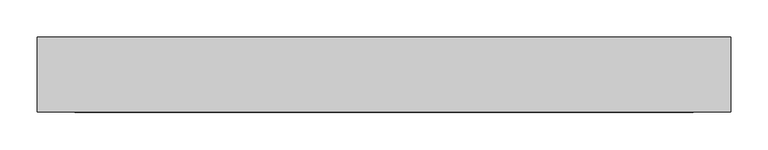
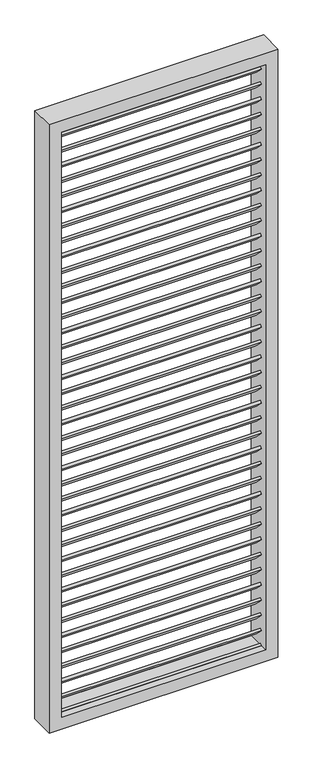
"""IFC4 building model written with IfcOpenShell, lengths in millimetres: plate geometry, 幕墙嵌板-百叶 : 幕墙嵌板-百叶."""

import ifcopenshell
import ifcopenshell.guid

model = None  # the IFC model being written
_history = None  # IfcOwnerHistory: only IFC2X3 demands one
_inside = {}  # id of a spatial element -> (the spatial element, [elements in it])
_under = {}  # id of a project, library or spatial element -> (it, [spatial elements below it])
_declared = {}  # id of a project -> (the project, [libraries it declares])
_typed = {}  # id of a type object -> (the type object, [elements of that type])
_made_of = {}  # id of a material, layer set ... -> (it, [elements and type objects made of it])


def new_model(schema):
    """Start an empty IFC model of exactly this schema.

    Asked for "IFC4X3", IfcOpenShell would pick the latest addendum, in which some entities
    have other attributes; the version numbers below select the first issue.
    IFC2X3 requires an IfcOwnerHistory on every rooted entity: one is made here for all.
    """
    global model, _history
    if schema == "IFC4X3":
        model = ifcopenshell.file(schema_version=(4, 3, 0, 0))
    else:
        model = ifcopenshell.file(schema=schema)
    _inside.clear()
    _under.clear()
    _declared.clear()
    _typed.clear()
    _made_of.clear()
    _history = None
    if model.schema == "IFC2X3":
        org = make("IfcOrganization", Name="unknown")
        user = make(
            "IfcPersonAndOrganization",
            ThePerson=make("IfcPerson", FamilyName="unknown"),
            TheOrganization=org,
        )
        app = make(
            "IfcApplication",
            ApplicationDeveloper=org,
            Version="unknown",
            ApplicationFullName="unknown",
            ApplicationIdentifier="unknown",
        )
        _history = make(
            "IfcOwnerHistory",
            OwningUser=user,
            OwningApplication=app,
            ChangeAction="ADDED",
            CreationDate=0,
        )
    return model


def make(cls, **values):
    """One entity of the class cls with the attributes given. An attribute that is None is left unset."""
    return model.create_entity(
        cls, **{name: value for name, value in values.items() if value is not None}
    )


def rooted(cls, **values):
    """An entity with a GlobalId (a new one), such as an element, a storey or a relation."""
    return make(cls, GlobalId=ifcopenshell.guid.new(), OwnerHistory=_history, **values)


def si_unit(unit_type, name, prefix=None):
    """IfcSIUnit, for example si_unit("LENGTHUNIT", "METRE", prefix="MILLI")."""
    return make("IfcSIUnit", UnitType=unit_type, Prefix=prefix, Name=name)


def assignment(units):
    """IfcUnitAssignment: the units of a project."""
    return None if units is None else make("IfcUnitAssignment", Units=units)


def point(xyz):
    """IfcCartesianPoint."""
    return None if xyz is None else make("IfcCartesianPoint", Coordinates=xyz)


def direction(xyz):
    """IfcDirection."""
    return None if xyz is None else make("IfcDirection", DirectionRatios=xyz)


def frame(location, z_axis=None, x_axis=None):
    """IfcAxis2Placement3D, a coordinate frame: its origin and axes. An axis left out is left unset."""
    return make(
        "IfcAxis2Placement3D",
        Location=point(location),
        Axis=direction(z_axis),
        RefDirection=direction(x_axis),
    )


def origin():
    """The frame at (0, 0, 0) with its axes left unset."""
    return frame((0.0, 0.0, 0.0))


def place(relative_to, where):
    """IfcLocalPlacement: puts the frame where relative to a parent placement (None: the world)."""
    return make(
        "IfcLocalPlacement", PlacementRelTo=relative_to, RelativePlacement=where
    )


def context(
    kind, dimensions, precision=None, world=None, true_north=None, identifier=None
):
    """IfcGeometricRepresentationContext, for example the 3D "Model" context."""
    return make(
        "IfcGeometricRepresentationContext",
        ContextIdentifier=identifier,
        ContextType=kind,
        CoordinateSpaceDimension=dimensions,
        Precision=precision,
        WorldCoordinateSystem=world,
        TrueNorth=true_north,
    )


def project(units=None, contexts=None):
    """IfcProject with its units and contexts."""
    return rooted(
        "IfcProject",
        Name="project",
        RepresentationContexts=contexts,
        UnitsInContext=assignment(units),
    )


def spatial(cls, under=None, at=None, **own):
    """A site, building, storey or space (cls), placed at a placement, below another one or the project."""
    s = rooted(cls, ObjectPlacement=at, **own)
    if under is not None:
        _under.setdefault(under.id(), (under, []))[1].append(s)
    return s


def polyline(points):
    """IfcPolyline through the points."""
    return make("IfcPolyline", Points=[point(p) for p in points])


def outline(outer, holes=None, kind="AREA"):
    """IfcArbitraryClosedProfileDef: a profile drawn as a closed curve; with holes, ...WithVoids."""
    if holes is None:
        return make("IfcArbitraryClosedProfileDef", ProfileType=kind, OuterCurve=outer)
    return make(
        "IfcArbitraryProfileDefWithVoids",
        ProfileType=kind,
        OuterCurve=outer,
        InnerCurves=holes,
    )


def extrude(swept, where, along, depth):
    """IfcExtrudedAreaSolid: the profile swept, set in the frame where, extruded along a direction by depth."""
    return make(
        "IfcExtrudedAreaSolid",
        SweptArea=swept,
        Position=where,
        ExtrudedDirection=direction(along),
        Depth=depth,
    )


def shape(context_of_items, identifier, shape_type, items):
    """IfcShapeRepresentation: the items that make up one representation, for example the "Body"."""
    return make(
        "IfcShapeRepresentation",
        ContextOfItems=context_of_items,
        RepresentationIdentifier=identifier,
        RepresentationType=shape_type,
        Items=items,
    )


def source(mapping_origin, context_of_items, identifier, shape_type, items):
    """IfcRepresentationMap: a shape defined once, which mapped items show again and again."""
    return make(
        "IfcRepresentationMap",
        MappingOrigin=mapping_origin,
        MappedRepresentation=shape(context_of_items, identifier, shape_type, items),
    )


def transform(
    local_origin,
    x_axis=None,
    y_axis=None,
    z_axis=None,
    scale=None,
    scale2=None,
    scale3=None,
    uniform=True,
):
    """IfcCartesianTransformationOperator3D, or its non-uniform kind. x_axis, y_axis, z_axis: its Axis1, 2, 3."""
    if uniform:
        return make(
            "IfcCartesianTransformationOperator3D",
            Axis1=direction(x_axis),
            Axis2=direction(y_axis),
            LocalOrigin=point(local_origin),
            Scale=scale,
            Axis3=direction(z_axis),
        )
    return make(
        "IfcCartesianTransformationOperator3DnonUniform",
        Axis1=direction(x_axis),
        Axis2=direction(y_axis),
        LocalOrigin=point(local_origin),
        Scale=scale,
        Axis3=direction(z_axis),
        Scale2=scale2,
        Scale3=scale3,
    )


def mapped(mapping_source, mapping_target):
    """IfcMappedItem: shows the shape of a source again, moved by a transform."""
    return make(
        "IfcMappedItem", MappingSource=mapping_source, MappingTarget=mapping_target
    )


def made_of(thing, what):
    """Note that an element or type object is made of a material, layer set ...; save() writes the relation."""
    if what is not None:
        _made_of.setdefault(what.id(), (what, []))[1].append(thing)
    return thing


def element(
    cls,
    number,
    at=None,
    inside=None,
    cuts=None,
    type_object=None,
    material=None,
    context=None,
    identifier="Body",
    shape_type=None,
    held_by="IfcProductDefinitionShape",
    body=None,
    shapes=None,
    **own,
):
    """One element of the class cls, such as IfcWall. Its Tag is "e" and its number.

    at: its placement. inside: the storey or other place that contains it. cuts: it is an
    opening in that element (IfcRelVoidsElement). A single representation is given by context,
    identifier, shape_type and body (its items); several are given by shapes. held_by: the class
    of the entity that holds the representations. save() writes the other relations.
    """
    e = rooted(cls, Tag="e%d" % number, ObjectPlacement=at, **own)
    if body is not None:
        shapes = [shape(context, identifier, shape_type, body)]
    if shapes is not None:
        e.Representation = make(held_by, Representations=shapes)
    if inside is not None:
        _inside.setdefault(inside.id(), (inside, []))[1].append(e)
    if cuts is not None:
        rooted(
            "IfcRelVoidsElement", RelatingBuildingElement=cuts, RelatedOpeningElement=e
        )
    if type_object is not None:
        _typed.setdefault(type_object.id(), (type_object, []))[1].append(e)
    return made_of(e, material)


def aggregate(whole, parts):
    """IfcRelAggregates: a whole, such as a stair, and the parts it consists of."""
    return rooted("IfcRelAggregates", RelatingObject=whole, RelatedObjects=parts)


def save(model, path):
    """Write the relations noted so far, then the file.

    IfcRelAggregates (storeys below a building ...), IfcRelContainedInSpatialStructure (elements
    in a storey), IfcRelDefinesByType, IfcRelAssociatesMaterial and IfcRelDeclares: one each for
    every whole, place, type object, material and project.
    """
    for whole, parts in _under.values():
        aggregate(whole, parts)
    for where, things in _inside.values():
        rooted(
            "IfcRelContainedInSpatialStructure",
            RelatedElements=things,
            RelatingStructure=where,
        )
    for kind, things in _typed.values():
        rooted("IfcRelDefinesByType", RelatedObjects=things, RelatingType=kind)
    for what, things in _made_of.values():
        rooted("IfcRelAssociatesMaterial", RelatedObjects=things, RelatingMaterial=what)
    for by, libraries in _declared.values():
        rooted("IfcRelDeclares", RelatingContext=by, RelatedDefinitions=libraries)
    model.write(path)


def plate_4897ade4(model_context):
    return source(origin(), model_context, "Body", "SweptSolid", [
        extrude(outline(polyline([(0.0, -50.0), (0.0, 0.0), (825.0, 0.0), (825.0, -50.0), (0.0, -50.0)])), frame((412.5, -21.2132034, 2514.2703408), z_axis=(0.0, 0.7071067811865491, 0.7071067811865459), x_axis=(-1.0, 0.0, 0.0)), (0.0, 0.0, 1.0), 10.0),
        extrude(outline(polyline([(0.0, -50.0), (0.0, 0.0), (825.0, 0.0), (825.0, -50.0), (0.0, -50.0)])), frame((412.5, -21.2132034, 2449.3985459), z_axis=(0.0, 0.7071067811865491, 0.7071067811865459), x_axis=(-1.0, 0.0, 0.0)), (0.0, 0.0, 1.0), 10.0),
        extrude(outline(polyline([(0.0, -50.0), (0.0, 0.0), (825.0, 0.0), (825.0, -50.0), (0.0, -50.0)])), frame((412.5, -21.2132034, 2384.526751), z_axis=(0.0, 0.7071067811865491, 0.7071067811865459), x_axis=(-1.0, 0.0, 0.0)), (0.0, 0.0, 1.0), 10.0),
        extrude(outline(polyline([(0.0, -49.9999999), (0.0, 0.0), (825.0, 0.0), (825.0, -49.9999999), (0.0, -49.9999999)])), frame((412.5, -21.2132034, 2319.6549561), z_axis=(0.0, 0.7071067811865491, 0.7071067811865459), x_axis=(-1.0, 0.0, 0.0)), (0.0, 0.0, 1.0), 10.0),
        extrude(outline(polyline([(0.0, -50.0), (0.0, 0.0), (825.0, 0.0), (825.0, -50.0), (0.0, -50.0)])), frame((412.5, -21.2132034, 2254.7831613), z_axis=(0.0, 0.7071067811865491, 0.7071067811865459), x_axis=(-1.0, 0.0, 0.0)), (0.0, 0.0, 1.0), 10.0),
        extrude(outline(polyline([(0.0, -50.0), (0.0, 0.0), (825.0, 0.0), (825.0, -50.0), (0.0, -50.0)])), frame((412.5, -21.2132034, 2189.9113664), z_axis=(0.0, 0.7071067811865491, 0.7071067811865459), x_axis=(-1.0, 0.0, 0.0)), (0.0, 0.0, 1.0), 10.0),
        extrude(outline(polyline([(0.0, -49.9999999), (0.0, 0.0), (825.0, 0.0), (825.0, -49.9999999), (0.0, -49.9999999)])), frame((412.5, -21.2132034, 2125.0395715), z_axis=(0.0, 0.7071067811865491, 0.7071067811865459), x_axis=(-1.0, 0.0, 0.0)), (0.0, 0.0, 1.0), 10.0),
        extrude(outline(polyline([(0.0, -49.9999999), (0.0, 0.0), (825.0, 0.0), (825.0, -49.9999999), (0.0, -49.9999999)])), frame((412.5, -21.2132034, 2060.1677766), z_axis=(0.0, 0.7071067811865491, 0.7071067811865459), x_axis=(-1.0, 0.0, 0.0)), (0.0, 0.0, 1.0), 10.0),
        extrude(outline(polyline([(0.0, -50.0), (0.0, 0.0), (825.0, 0.0), (825.0, -50.0), (0.0, -50.0)])), frame((412.5, -21.2132034, 1995.2959818), z_axis=(0.0, 0.7071067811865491, 0.7071067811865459), x_axis=(-1.0, 0.0, 0.0)), (0.0, 0.0, 1.0), 10.0),
        extrude(outline(polyline([(0.0, -50.0), (0.0, 0.0), (825.0, 0.0), (825.0, -50.0), (0.0, -50.0)])), frame((412.5, -21.2132034, 1930.4241869), z_axis=(0.0, 0.7071067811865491, 0.7071067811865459), x_axis=(-1.0, 0.0, 0.0)), (0.0, 0.0, 1.0), 10.0),
        extrude(outline(polyline([(0.0, -49.9999999), (0.0, 0.0), (825.0, 0.0), (825.0, -49.9999999), (0.0, -49.9999999)])), frame((412.5, -21.2132034, 1865.552392), z_axis=(0.0, 0.7071067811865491, 0.7071067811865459), x_axis=(-1.0, 0.0, 0.0)), (0.0, 0.0, 1.0), 10.0),
        extrude(outline(polyline([(0.0, -50.0), (0.0, 0.0), (825.0, 0.0), (825.0, -50.0), (0.0, -50.0)])), frame((412.5, -21.2132034, 1800.6805972), z_axis=(0.0, 0.7071067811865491, 0.7071067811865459), x_axis=(-1.0, 0.0, 0.0)), (0.0, 0.0, 1.0), 10.0),
        extrude(outline(polyline([(0.0, -50.0), (0.0, 0.0), (825.0, 0.0), (825.0, -50.0), (0.0, -50.0)])), frame((412.5, -21.2132034, 1735.8088023), z_axis=(0.0, 0.7071067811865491, 0.7071067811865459), x_axis=(-1.0, 0.0, 0.0)), (0.0, 0.0, 1.0), 10.0),
        extrude(outline(polyline([(0.0, -49.9999999), (0.0, 0.0), (825.0, 0.0), (825.0, -49.9999999), (0.0, -49.9999999)])), frame((412.5, -21.2132034, 1670.9370074), z_axis=(0.0, 0.7071067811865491, 0.7071067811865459), x_axis=(-1.0, 0.0, 0.0)), (0.0, 0.0, 1.0), 10.0),
        extrude(outline(polyline([(0.0, -49.9999999), (0.0, 0.0), (825.0, 0.0), (825.0, -49.9999999), (0.0, -49.9999999)])), frame((412.5, -21.2132034, 1606.0652125), z_axis=(0.0, 0.7071067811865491, 0.7071067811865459), x_axis=(-1.0, 0.0, 0.0)), (0.0, 0.0, 1.0), 10.0),
        extrude(outline(polyline([(0.0, -50.0), (0.0, 0.0), (825.0, 0.0), (825.0, -50.0), (0.0, -50.0)])), frame((412.5, -21.2132034, 1541.1934177), z_axis=(0.0, 0.7071067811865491, 0.7071067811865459), x_axis=(-1.0, 0.0, 0.0)), (0.0, 0.0, 1.0), 10.0),
        extrude(outline(polyline([(0.0, -50.0), (0.0, 0.0), (825.0, 0.0), (825.0, -50.0), (0.0, -50.0)])), frame((412.5, -21.2132034, 1476.3216228), z_axis=(0.0, 0.7071067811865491, 0.7071067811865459), x_axis=(-1.0, 0.0, 0.0)), (0.0, 0.0, 1.0), 10.0),
        extrude(outline(polyline([(0.0, -49.9999999), (0.0, 0.0), (825.0, 0.0), (825.0, -49.9999999), (0.0, -49.9999999)])), frame((412.5, -21.2132034, 1411.4498279), z_axis=(0.0, 0.7071067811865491, 0.7071067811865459), x_axis=(-1.0, 0.0, 0.0)), (0.0, 0.0, 1.0), 10.0),
        extrude(outline(polyline([(0.0, -50.0), (0.0, 0.0), (825.0, 0.0), (825.0, -50.0), (0.0, -50.0)])), frame((412.5, -21.2132034, 1346.5780331), z_axis=(0.0, 0.7071067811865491, 0.7071067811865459), x_axis=(-1.0, 0.0, 0.0)), (0.0, 0.0, 1.0), 10.0),
        extrude(outline(polyline([(0.0, -50.0), (0.0, 0.0), (825.0, 0.0), (825.0, -50.0), (0.0, -50.0)])), frame((412.5, -21.2132034, 1281.7062382), z_axis=(0.0, 0.7071067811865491, 0.7071067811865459), x_axis=(-1.0, 0.0, 0.0)), (0.0, 0.0, 1.0), 10.0),
        extrude(outline(polyline([(0.0, -49.9999999), (0.0, 0.0), (825.0, 0.0), (825.0, -49.9999999), (0.0, -49.9999999)])), frame((412.5, -21.2132034, 1216.8344433), z_axis=(0.0, 0.7071067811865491, 0.7071067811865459), x_axis=(-1.0, 0.0, 0.0)), (0.0, 0.0, 1.0), 10.0),
        extrude(outline(polyline([(0.0, -49.9999999), (0.0, 0.0), (825.0, 0.0), (825.0, -49.9999999), (0.0, -49.9999999)])), frame((412.5, -21.2132034, 1151.9626484), z_axis=(0.0, 0.7071067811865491, 0.7071067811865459), x_axis=(-1.0, 0.0, 0.0)), (0.0, 0.0, 1.0), 10.0),
        extrude(outline(polyline([(0.0, -50.0), (0.0, 0.0), (825.0, 0.0), (825.0, -50.0), (0.0, -50.0)])), frame((412.5, -21.2132034, 1087.0908536), z_axis=(0.0, 0.7071067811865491, 0.7071067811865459), x_axis=(-1.0, 0.0, 0.0)), (0.0, 0.0, 1.0), 10.0),
        extrude(outline(polyline([(0.0, -50.0), (0.0, 0.0), (825.0, 0.0), (825.0, -50.0), (0.0, -50.0)])), frame((412.5, -21.2132034, 1022.2190587), z_axis=(0.0, 0.7071067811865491, 0.7071067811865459), x_axis=(-1.0, 0.0, 0.0)), (0.0, 0.0, 1.0), 10.0),
        extrude(outline(polyline([(0.0, -49.9999999), (0.0, 0.0), (825.0, 0.0), (825.0, -49.9999999), (0.0, -49.9999999)])), frame((412.5, -21.2132034, 957.3472638), z_axis=(0.0, 0.7071067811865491, 0.7071067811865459), x_axis=(-1.0, 0.0, 0.0)), (0.0, 0.0, 1.0), 10.0),
        extrude(outline(polyline([(0.0, -50.0), (0.0, 0.0), (825.0, 0.0), (825.0, -50.0), (0.0, -50.0)])), frame((412.5, -21.2132034, 892.475469), z_axis=(0.0, 0.7071067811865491, 0.7071067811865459), x_axis=(-1.0, 0.0, 0.0)), (0.0, 0.0, 1.0), 10.0),
        extrude(outline(polyline([(0.0, -50.0), (0.0, 0.0), (825.0, 0.0), (825.0, -50.0), (0.0, -50.0)])), frame((412.5, -21.2132034, 827.6036741), z_axis=(0.0, 0.7071067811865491, 0.7071067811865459), x_axis=(-1.0, 0.0, 0.0)), (0.0, 0.0, 1.0), 10.0),
        extrude(outline(polyline([(0.0, -49.9999999), (0.0, 0.0), (825.0, 0.0), (825.0, -49.9999999), (0.0, -49.9999999)])), frame((412.5, -21.2132034, 762.7318792), z_axis=(0.0, 0.7071067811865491, 0.7071067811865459), x_axis=(-1.0, 0.0, 0.0)), (0.0, 0.0, 1.0), 10.0),
        extrude(outline(polyline([(0.0, -49.9999999), (0.0, 0.0), (825.0, 0.0), (825.0, -49.9999999), (0.0, -49.9999999)])), frame((412.5, -21.2132034, 697.8600843), z_axis=(0.0, 0.7071067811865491, 0.7071067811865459), x_axis=(-1.0, 0.0, 0.0)), (0.0, 0.0, 1.0), 10.0),
        extrude(outline(polyline([(0.0, -50.0), (0.0, 0.0), (825.0, 0.0), (825.0, -50.0), (0.0, -50.0)])), frame((412.5, -21.2132034, 632.9882895), z_axis=(0.0, 0.7071067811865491, 0.7071067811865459), x_axis=(-1.0, 0.0, 0.0)), (0.0, 0.0, 1.0), 10.0),
        extrude(outline(polyline([(0.0, -50.0), (0.0, 0.0), (825.0, 0.0), (825.0, -50.0), (0.0, -50.0)])), frame((412.5, -21.2132034, 568.1164946), z_axis=(0.0, 0.7071067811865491, 0.7071067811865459), x_axis=(-1.0, 0.0, 0.0)), (0.0, 0.0, 1.0), 10.0),
        extrude(outline(polyline([(0.0, -49.9999999), (0.0, 0.0), (825.0, 0.0), (825.0, -49.9999999), (0.0, -49.9999999)])), frame((412.5, -21.2132034, 503.2446997), z_axis=(0.0, 0.7071067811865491, 0.7071067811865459), x_axis=(-1.0, 0.0, 0.0)), (0.0, 0.0, 1.0), 10.0),
        extrude(outline(polyline([(0.0, -50.0), (0.0, 0.0), (825.0, 0.0), (825.0, -50.0), (0.0, -50.0)])), frame((412.5, -21.2132034, 438.3729049), z_axis=(0.0, 0.7071067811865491, 0.7071067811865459), x_axis=(-1.0, 0.0, 0.0)), (0.0, 0.0, 1.0), 10.0),
        extrude(outline(polyline([(0.0, -50.0), (0.0, 0.0), (825.0, 0.0), (825.0, -50.0), (0.0, -50.0)])), frame((412.5, -21.2132034, 373.50111), z_axis=(0.0, 0.7071067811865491, 0.7071067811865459), x_axis=(-1.0, 0.0, 0.0)), (0.0, 0.0, 1.0), 10.0),
        extrude(outline(polyline([(0.0, -49.9999999), (0.0, 0.0), (825.0, 0.0), (825.0, -49.9999999), (0.0, -49.9999999)])), frame((412.5, -21.2132034, 308.6293151), z_axis=(0.0, 0.7071067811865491, 0.7071067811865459), x_axis=(-1.0, 0.0, 0.0)), (0.0, 0.0, 1.0), 10.0),
        extrude(outline(polyline([(0.0, -49.9999999), (0.0, 0.0), (825.0, 0.0), (825.0, -49.9999999), (0.0, -49.9999999)])), frame((412.5, -21.2132034, 243.7575202), z_axis=(0.0, 0.7071067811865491, 0.7071067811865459), x_axis=(-1.0, 0.0, 0.0)), (0.0, 0.0, 1.0), 10.0),
        extrude(outline(polyline([(0.0, -50.0), (0.0, 0.0), (825.0, 0.0), (825.0, -50.0), (0.0, -50.0)])), frame((412.5, -21.2132034, 178.8857254), z_axis=(0.0, 0.7071067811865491, 0.7071067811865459), x_axis=(-1.0, 0.0, 0.0)), (0.0, 0.0, 1.0), 10.0),
        extrude(outline(polyline([(0.0, -50.0), (0.0, 0.0), (825.0, 0.0), (825.0, -50.0), (0.0, -50.0)])), frame((412.5, -21.2132034, 114.0139305), z_axis=(0.0, 0.7071067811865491, 0.7071067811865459), x_axis=(-1.0, 0.0, 0.0)), (0.0, 0.0, 1.0), 10.0),
        extrude(outline(polyline([(0.0, -49.9999999), (0.0, 0.0), (825.0, 0.0), (825.0, -49.9999999), (0.0, -49.9999999)])), frame((412.5, -21.2132034, 2579.1421356), z_axis=(0.0, 0.7071067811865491, 0.7071067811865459), x_axis=(-1.0, 0.0, 0.0)), (0.0, 0.0, 1.0), 10.0),
        extrude(outline(polyline([(0.0, -49.9999999), (0.0, 0.0), (825.0, 0.0), (825.0, -49.9999999), (0.0, -49.9999999)])), frame((412.5, -21.2132034, 49.1421356), z_axis=(0.0, 0.7071067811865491, 0.7071067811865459), x_axis=(-1.0, 0.0, 0.0)), (0.0, 0.0, 1.0), 10.0),
        extrude(outline(polyline([(0.0, -462.5), (0.0, 462.5), (2600.0, 462.5), (2600.0, -462.5), (0.0, -462.5)]), holes=[polyline([(2550.0, -412.5), (2550.0, 412.5), (50.0, 412.5), (50.0, -412.5), (2550.0, -412.5)])]), frame((0.0, -50.0, 0.0), z_axis=(0.0, 1.0, 0.0), x_axis=(0.0, 0.0, 1.0)), (0.0, 0.0, 1.0), 100.0),
    ])


if __name__ == "__main__":
    model = new_model("IFC4")
    model_context = context("Model", 3, world=origin())
    ifc_project = project(units=[si_unit("LENGTHUNIT", "METRE", prefix="MILLI")], contexts=[model_context])
    site = spatial("IfcSite", under=ifc_project)
    building = spatial("IfcBuilding", under=site)
    placement = place(None, origin())
    plate_shape = plate_4897ade4(model_context)
    element("IfcPlate", 1, ObjectType="幕墙嵌板-百叶 : 幕墙嵌板-百叶", at=placement, inside=building, context=model_context, shape_type="MappedRepresentation", body=[
        mapped(plate_shape, transform((0.0, 0.0, 0.0), x_axis=(1.0, 0.0, 0.0), y_axis=(0.0, 1.0, 0.0), z_axis=(0.0, 0.0, 1.0))),
    ])
    save(model, "model.ifc")
